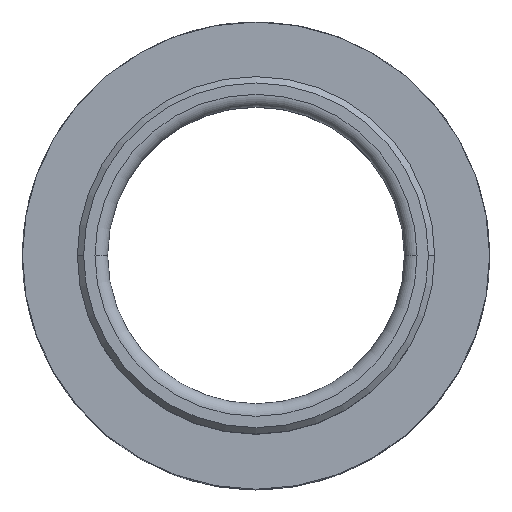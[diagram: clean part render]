
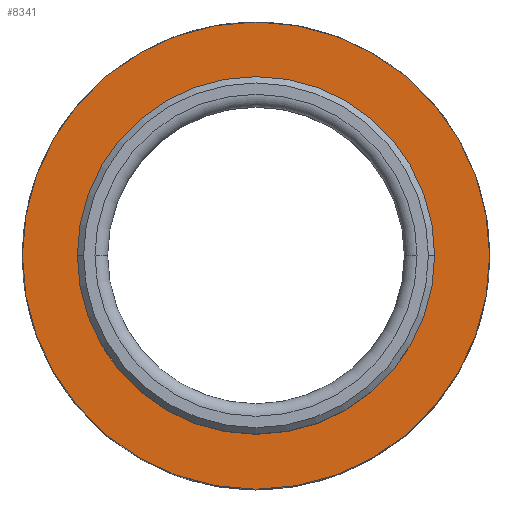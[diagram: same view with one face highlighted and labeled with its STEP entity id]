
A CAD part, top view. The second image highlights one B-rep face of the part: STEP entity #8341.
In plain terms, the highlighted planar face has unit normal (0, 0, 1).
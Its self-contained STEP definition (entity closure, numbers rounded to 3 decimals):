
#409 = ORIENTED_EDGE ( 'NONE', *, *, #7589, .F. ) ;
#696 = DIRECTION ( 'NONE',  ( 0., 0., -1. ) ) ;
#1307 = CARTESIAN_POINT ( 'NONE',  ( 18.5, 0., 0. ) ) ;
#1374 = DIRECTION ( 'NONE',  ( -1., 0., 0. ) ) ;
#1562 = DIRECTION ( 'NONE',  ( 0., 0., -1. ) ) ;
#1563 = CIRCLE ( 'NONE', #2197, 18.5 ) ;
#2084 = DIRECTION ( 'NONE',  ( -1., 0., 0. ) ) ;
#2197 = AXIS2_PLACEMENT_3D ( 'NONE', #5018, #1562, #7847 ) ;
#2322 = AXIS2_PLACEMENT_3D ( 'NONE', #2759, #7630, #2084 ) ;
#2341 = CARTESIAN_POINT ( 'NONE',  ( 0., 0., 0. ) ) ;
#2440 = AXIS2_PLACEMENT_3D ( 'NONE', #6801, #696, #1374 ) ;
#2476 = CIRCLE ( 'NONE', #2322, 18.5 ) ;
#2481 = EDGE_LOOP ( 'NONE', ( #8657, #5536 ) ) ;
#2611 = CARTESIAN_POINT ( 'NONE',  ( 13.35, 0., 0. ) ) ;
#2759 = CARTESIAN_POINT ( 'NONE',  ( 0., 0., 0. ) ) ;
#2838 = FACE_OUTER_BOUND ( 'NONE', #5337, .T. ) ;
#3235 = VERTEX_POINT ( 'NONE', #2611 ) ;
#3917 = EDGE_CURVE ( 'NONE', #6865, #5735, #2476, .T. ) ;
#4214 = CIRCLE ( 'NONE', #8877, 13.35 ) ;
#4507 = DIRECTION ( 'NONE',  ( 0., 0., 1. ) ) ;
#4596 = DIRECTION ( 'NONE',  ( 1., 0., 0. ) ) ;
#4852 = CIRCLE ( 'NONE', #7319, 13.35 ) ;
#4972 = EDGE_CURVE ( 'NONE', #5674, #3235, #4214, .T. ) ;
#5018 = CARTESIAN_POINT ( 'NONE',  ( 0., 0., 0. ) ) ;
#5284 = PLANE ( 'NONE',  #2440 ) ;
#5305 = CARTESIAN_POINT ( 'NONE',  ( 0., 0., 0. ) ) ;
#5337 = EDGE_LOOP ( 'NONE', ( #5399, #409 ) ) ;
#5339 = FACE_BOUND ( 'NONE', #2481, .T. ) ;
#5345 = EDGE_CURVE ( 'NONE', #3235, #5674, #4852, .T. ) ;
#5399 = ORIENTED_EDGE ( 'NONE', *, *, #3917, .F. ) ;
#5502 = CARTESIAN_POINT ( 'NONE',  ( -13.35, 0., 0. ) ) ;
#5536 = ORIENTED_EDGE ( 'NONE', *, *, #4972, .F. ) ;
#5674 = VERTEX_POINT ( 'NONE', #5502 ) ;
#5735 = VERTEX_POINT ( 'NONE', #7779 ) ;
#6801 = CARTESIAN_POINT ( 'NONE',  ( 0., 0., 0. ) ) ;
#6865 = VERTEX_POINT ( 'NONE', #1307 ) ;
#7121 = DIRECTION ( 'NONE',  ( 0., 0., 1. ) ) ;
#7319 = AXIS2_PLACEMENT_3D ( 'NONE', #2341, #7121, #7921 ) ;
#7589 = EDGE_CURVE ( 'NONE', #5735, #6865, #1563, .T. ) ;
#7630 = DIRECTION ( 'NONE',  ( 0., 0., -1. ) ) ;
#7779 = CARTESIAN_POINT ( 'NONE',  ( -18.5, 0., 0. ) ) ;
#7847 = DIRECTION ( 'NONE',  ( -1., 0., 0. ) ) ;
#7921 = DIRECTION ( 'NONE',  ( 1., 0., 0. ) ) ;
#8341 = ADVANCED_FACE ( 'NONE', ( #2838, #5339 ), #5284, .F. ) ;
#8657 = ORIENTED_EDGE ( 'NONE', *, *, #5345, .F. ) ;
#8877 = AXIS2_PLACEMENT_3D ( 'NONE', #5305, #4507, #4596 ) ;
